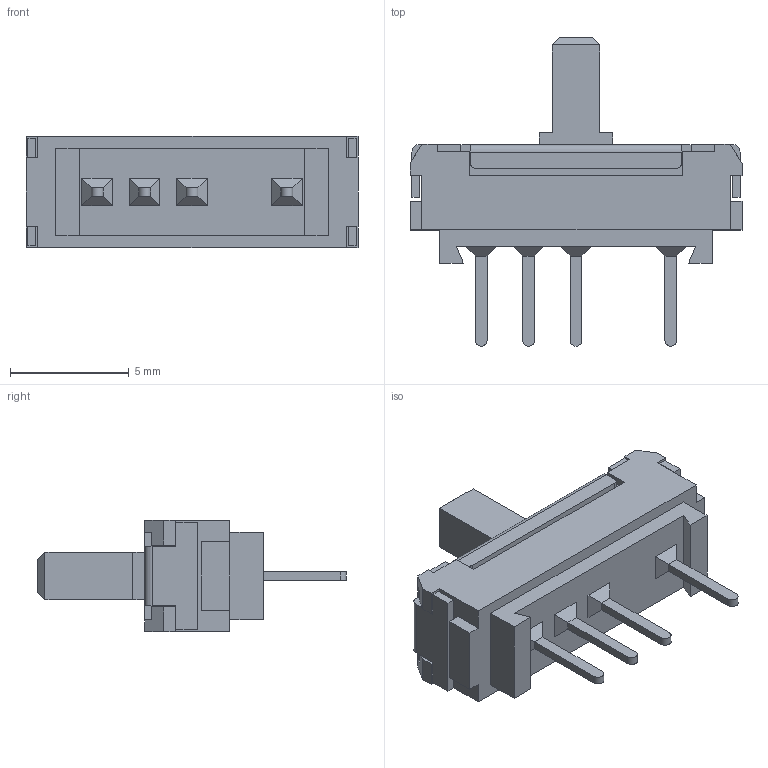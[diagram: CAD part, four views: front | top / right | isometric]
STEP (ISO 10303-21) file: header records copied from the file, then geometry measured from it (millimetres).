
FILE_DESCRIPTION (( 'STEP AP214' ), '1' );
FILE_NAME ('SSSS919800.STEP', '2011-04-05T09:24:48', ( '' ), ( '' ), 'SwSTEP 2.0', 'SolidWorks 2007', '' );
FILE_SCHEMA (( 'AUTOMOTIVE_DESIGN' ));
Length unit declared in the file: millimetre
Products named in the file (1): SSSS919800
Bounding box: 14 x 13 x 4.7 mm (x, y, z)
Volume: 280.1 mm3; surface area: 414.7 mm2
Topology: 1 solids, 1 shells, 176 faces, 464 edges, 296 vertices
Faces by surface type: plane 164, cylinder 12
Entity records: 7196 total; most frequent: CARTESIAN_POINT 937, ORIENTED_EDGE 928, DIRECTION 842, EDGE_CURVE 464, LINE 440, VECTOR 440, VERTEX_POINT 296, AXIS2_PLACEMENT_3D 201
